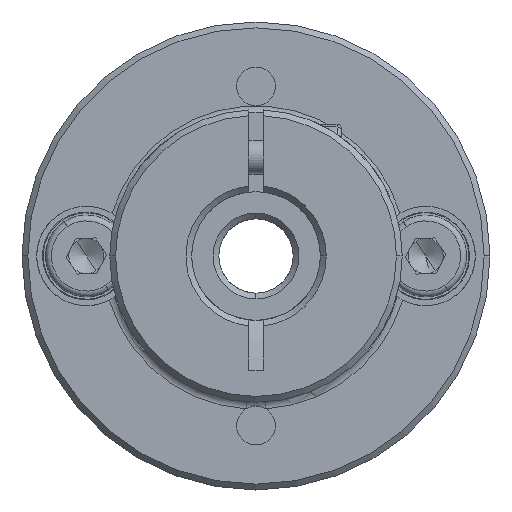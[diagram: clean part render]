
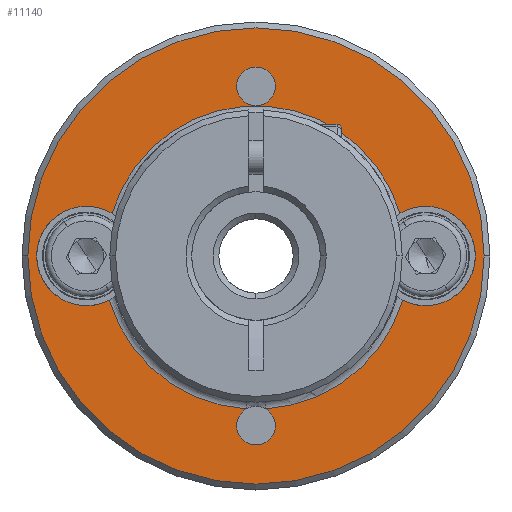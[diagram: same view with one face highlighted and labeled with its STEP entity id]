
A CAD part, front view. The second image highlights one B-rep face of the part: STEP entity #11140.
In plain terms, the highlighted planar face has unit normal (0, -1, 0).
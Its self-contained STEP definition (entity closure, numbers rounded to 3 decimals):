
#16 = CARTESIAN_POINT ( 'NONE',  ( -11.175, -13.63, 26.926 ) ) ;
#107 = DIRECTION ( 'NONE',  ( 0., -1., 0. ) ) ;
#267 = DIRECTION ( 'NONE',  ( 0., 1., 0. ) ) ;
#489 = VERTEX_POINT ( 'NONE', #3981 ) ;
#736 = VERTEX_POINT ( 'NONE', #12069 ) ;
#776 = CIRCLE ( 'NONE', #8726, 4.25 ) ;
#858 = CARTESIAN_POINT ( 'NONE',  ( -30.755, -13.63, 40. ) ) ;
#864 = EDGE_LOOP ( 'NONE', ( #7409, #5107 ) ) ;
#891 = ORIENTED_EDGE ( 'NONE', *, *, #9051, .T. ) ;
#950 = AXIS2_PLACEMENT_3D ( 'NONE', #1246, #9145, #10049 ) ;
#1021 = EDGE_CURVE ( 'NONE', #3711, #5891, #6342, .T. ) ;
#1039 = DIRECTION ( 'NONE',  ( 1., 0., 0. ) ) ;
#1235 = DIRECTION ( 'NONE',  ( 0., 1., 0. ) ) ;
#1246 = CARTESIAN_POINT ( 'NONE',  ( -12.005, -13.63, 40. ) ) ;
#1593 = ORIENTED_EDGE ( 'NONE', *, *, #1757, .T. ) ;
#1619 = FACE_BOUND ( 'NONE', #9688, .T. ) ;
#1757 = EDGE_CURVE ( 'NONE', #9750, #5397, #10942, .T. ) ;
#2128 = CARTESIAN_POINT ( 'NONE',  ( -12.005, -13.63, 54.5 ) ) ;
#2541 = ORIENTED_EDGE ( 'NONE', *, *, #1021, .T. ) ;
#2837 = EDGE_CURVE ( 'NONE', #5397, #9750, #10109, .T. ) ;
#2878 = CIRCLE ( 'NONE', #950, 12.829 ) ;
#3041 = AXIS2_PLACEMENT_3D ( 'NONE', #5029, #107, #5158 ) ;
#3051 = CARTESIAN_POINT ( 'NONE',  ( -31.505, -13.63, 40. ) ) ;
#3055 = CARTESIAN_POINT ( 'NONE',  ( -12.005, -13.63, 40. ) ) ;
#3210 = AXIS2_PLACEMENT_3D ( 'NONE', #4100, #5028, #5076 ) ;
#3250 = ORIENTED_EDGE ( 'NONE', *, *, #8248, .T. ) ;
#3299 = VERTEX_POINT ( 'NONE', #16 ) ;
#3325 = VERTEX_POINT ( 'NONE', #11747 ) ;
#3636 = EDGE_CURVE ( 'NONE', #7091, #10027, #7087, .T. ) ;
#3711 = VERTEX_POINT ( 'NONE', #9641 ) ;
#3722 = CIRCLE ( 'NONE', #8884, 1.65 ) ;
#3726 = CIRCLE ( 'NONE', #9014, 4.25 ) ;
#3818 = AXIS2_PLACEMENT_3D ( 'NONE', #3055, #11853, #9854 ) ;
#3981 = CARTESIAN_POINT ( 'NONE',  ( -24.307, -13.63, 43.638 ) ) ;
#4061 = CARTESIAN_POINT ( 'NONE',  ( -12.005, -13.63, 25.5 ) ) ;
#4100 = CARTESIAN_POINT ( 'NONE',  ( -12.005, -13.63, 54.5 ) ) ;
#4140 = DIRECTION ( 'NONE',  ( 0., 1., 0. ) ) ;
#4284 = AXIS2_PLACEMENT_3D ( 'NONE', #6516, #11225, #6418 ) ;
#4367 = ORIENTED_EDGE ( 'NONE', *, *, #11634, .T. ) ;
#4371 = AXIS2_PLACEMENT_3D ( 'NONE', #5159, #10970, #12024 ) ;
#4513 = ORIENTED_EDGE ( 'NONE', *, *, #10568, .T. ) ;
#4550 = ORIENTED_EDGE ( 'NONE', *, *, #8822, .T. ) ;
#4690 = CARTESIAN_POINT ( 'NONE',  ( -12.005, -13.63, 25.5 ) ) ;
#4783 = CARTESIAN_POINT ( 'NONE',  ( -12.834, -13.63, 26.926 ) ) ;
#5028 = DIRECTION ( 'NONE',  ( 0., 1., 0. ) ) ;
#5029 = CARTESIAN_POINT ( 'NONE',  ( -12.005, -13.63, 40. ) ) ;
#5076 = DIRECTION ( 'NONE',  ( 1., 0., 0. ) ) ;
#5107 = ORIENTED_EDGE ( 'NONE', *, *, #8801, .T. ) ;
#5158 = DIRECTION ( 'NONE',  ( 1., 0., 0. ) ) ;
#5159 = CARTESIAN_POINT ( 'NONE',  ( -12.005, -13.63, 40. ) ) ;
#5397 = VERTEX_POINT ( 'NONE', #5828 ) ;
#5654 = DIRECTION ( 'NONE',  ( 1., 0., 0. ) ) ;
#5828 = CARTESIAN_POINT ( 'NONE',  ( -10.355, -13.63, 54.5 ) ) ;
#5843 = VERTEX_POINT ( 'NONE', #858 ) ;
#5861 = CARTESIAN_POINT ( 'NONE',  ( -13.655, -13.63, 25.5 ) ) ;
#5891 = VERTEX_POINT ( 'NONE', #5861 ) ;
#5893 = DIRECTION ( 'NONE',  ( 0., 1., 0. ) ) ;
#5904 = VERTEX_POINT ( 'NONE', #8744 ) ;
#5918 = ORIENTED_EDGE ( 'NONE', *, *, #11877, .T. ) ;
#6133 = CARTESIAN_POINT ( 'NONE',  ( 2.495, -13.63, 40. ) ) ;
#6342 = CIRCLE ( 'NONE', #9698, 1.65 ) ;
#6418 = DIRECTION ( 'NONE',  ( 1., 0., 0. ) ) ;
#6474 = CARTESIAN_POINT ( 'NONE',  ( -12.005, -13.63, 40. ) ) ;
#6516 = CARTESIAN_POINT ( 'NONE',  ( -12.005, -13.63, 25.5 ) ) ;
#6708 = CARTESIAN_POINT ( 'NONE',  ( -12.005, -13.63, 40. ) ) ;
#6838 = CARTESIAN_POINT ( 'NONE',  ( -24.55, -13.63, 36.226 ) ) ;
#6857 = AXIS2_PLACEMENT_3D ( 'NONE', #6474, #12351, #8439 ) ;
#6970 = CARTESIAN_POINT ( 'NONE',  ( 7.495, -13.63, 40. ) ) ;
#6993 = DIRECTION ( 'NONE',  ( 0., 1., 0. ) ) ;
#7087 = CIRCLE ( 'NONE', #9192, 19.5 ) ;
#7091 = VERTEX_POINT ( 'NONE', #3051 ) ;
#7112 = CIRCLE ( 'NONE', #4284, 1.65 ) ;
#7132 = DIRECTION ( 'NONE',  ( 1., 0., 0. ) ) ;
#7196 = CARTESIAN_POINT ( 'NONE',  ( -26.505, -13.63, 40. ) ) ;
#7362 = PLANE ( 'NONE',  #6857 ) ;
#7409 = ORIENTED_EDGE ( 'NONE', *, *, #3636, .T. ) ;
#7846 = CIRCLE ( 'NONE', #4371, 13.1 ) ;
#8024 = VERTEX_POINT ( 'NONE', #6838 ) ;
#8068 = ORIENTED_EDGE ( 'NONE', *, *, #2837, .T. ) ;
#8148 = DIRECTION ( 'NONE',  ( 1., 0., 0. ) ) ;
#8248 = EDGE_CURVE ( 'NONE', #5843, #489, #3726, .T. ) ;
#8282 = EDGE_LOOP ( 'NONE', ( #4367, #3250, #11285, #4550, #4513, #5918, #9412, #2541, #11981, #891 ) ) ;
#8439 = DIRECTION ( 'NONE',  ( 1., 0., 0. ) ) ;
#8507 = CARTESIAN_POINT ( 'NONE',  ( -13.655, -13.63, 54.5 ) ) ;
#8578 = DIRECTION ( 'NONE',  ( 0., -1., 0. ) ) ;
#8726 = AXIS2_PLACEMENT_3D ( 'NONE', #7196, #1235, #10158 ) ;
#8744 = CARTESIAN_POINT ( 'NONE',  ( 0.298, -13.63, 43.638 ) ) ;
#8801 = EDGE_CURVE ( 'NONE', #10027, #7091, #9676, .T. ) ;
#8822 = EDGE_CURVE ( 'NONE', #5904, #736, #8894, .T. ) ;
#8884 = AXIS2_PLACEMENT_3D ( 'NONE', #4690, #11548, #5654 ) ;
#8894 = CIRCLE ( 'NONE', #10957, 4.25 ) ;
#9014 = AXIS2_PLACEMENT_3D ( 'NONE', #10203, #11189, #8148 ) ;
#9051 = EDGE_CURVE ( 'NONE', #11850, #8024, #7846, .T. ) ;
#9145 = DIRECTION ( 'NONE',  ( 0., 1., 0. ) ) ;
#9177 = DIRECTION ( 'NONE',  ( 1., 0., 0. ) ) ;
#9192 = AXIS2_PLACEMENT_3D ( 'NONE', #6708, #8578, #10635 ) ;
#9412 = ORIENTED_EDGE ( 'NONE', *, *, #12315, .T. ) ;
#9477 = FACE_OUTER_BOUND ( 'NONE', #864, .T. ) ;
#9641 = CARTESIAN_POINT ( 'NONE',  ( -10.355, -13.63, 25.5 ) ) ;
#9676 = CIRCLE ( 'NONE', #3041, 19.5 ) ;
#9688 = EDGE_LOOP ( 'NONE', ( #1593, #8068 ) ) ;
#9698 = AXIS2_PLACEMENT_3D ( 'NONE', #4061, #5893, #10834 ) ;
#9700 = CIRCLE ( 'NONE', #3818, 13.1 ) ;
#9750 = VERTEX_POINT ( 'NONE', #8507 ) ;
#9854 = DIRECTION ( 'NONE',  ( 1., 0., 0. ) ) ;
#10017 = CARTESIAN_POINT ( 'NONE',  ( 2.495, -13.63, 40. ) ) ;
#10027 = VERTEX_POINT ( 'NONE', #6970 ) ;
#10049 = DIRECTION ( 'NONE',  ( 1., 0., 0. ) ) ;
#10109 = CIRCLE ( 'NONE', #11092, 1.65 ) ;
#10158 = DIRECTION ( 'NONE',  ( 1., 0., 0. ) ) ;
#10203 = CARTESIAN_POINT ( 'NONE',  ( -26.505, -13.63, 40. ) ) ;
#10411 = FACE_BOUND ( 'NONE', #8282, .T. ) ;
#10568 = EDGE_CURVE ( 'NONE', #736, #3325, #11197, .T. ) ;
#10592 = EDGE_CURVE ( 'NONE', #489, #5904, #2878, .T. ) ;
#10635 = DIRECTION ( 'NONE',  ( 1., 0., 0. ) ) ;
#10834 = DIRECTION ( 'NONE',  ( 1., 0., 0. ) ) ;
#10942 = CIRCLE ( 'NONE', #3210, 1.65 ) ;
#10957 = AXIS2_PLACEMENT_3D ( 'NONE', #10017, #4140, #7132 ) ;
#10970 = DIRECTION ( 'NONE',  ( 0., 1., 0. ) ) ;
#11092 = AXIS2_PLACEMENT_3D ( 'NONE', #2128, #6993, #1039 ) ;
#11140 = ADVANCED_FACE ( 'NONE', ( #9477, #10411, #1619 ), #7362, .T. ) ;
#11189 = DIRECTION ( 'NONE',  ( 0., 1., 0. ) ) ;
#11197 = CIRCLE ( 'NONE', #12424, 4.25 ) ;
#11225 = DIRECTION ( 'NONE',  ( 0., 1., 0. ) ) ;
#11285 = ORIENTED_EDGE ( 'NONE', *, *, #10592, .T. ) ;
#11548 = DIRECTION ( 'NONE',  ( 0., 1., 0. ) ) ;
#11634 = EDGE_CURVE ( 'NONE', #8024, #5843, #776, .T. ) ;
#11747 = CARTESIAN_POINT ( 'NONE',  ( 0.54, -13.63, 36.226 ) ) ;
#11850 = VERTEX_POINT ( 'NONE', #4783 ) ;
#11853 = DIRECTION ( 'NONE',  ( 0., 1., 0. ) ) ;
#11877 = EDGE_CURVE ( 'NONE', #3325, #3299, #9700, .T. ) ;
#11981 = ORIENTED_EDGE ( 'NONE', *, *, #12179, .T. ) ;
#12024 = DIRECTION ( 'NONE',  ( 1., 0., 0. ) ) ;
#12069 = CARTESIAN_POINT ( 'NONE',  ( 6.745, -13.63, 40. ) ) ;
#12179 = EDGE_CURVE ( 'NONE', #5891, #11850, #7112, .T. ) ;
#12315 = EDGE_CURVE ( 'NONE', #3299, #3711, #3722, .T. ) ;
#12351 = DIRECTION ( 'NONE',  ( 0., -1., 0. ) ) ;
#12424 = AXIS2_PLACEMENT_3D ( 'NONE', #6133, #267, #9177 ) ;
